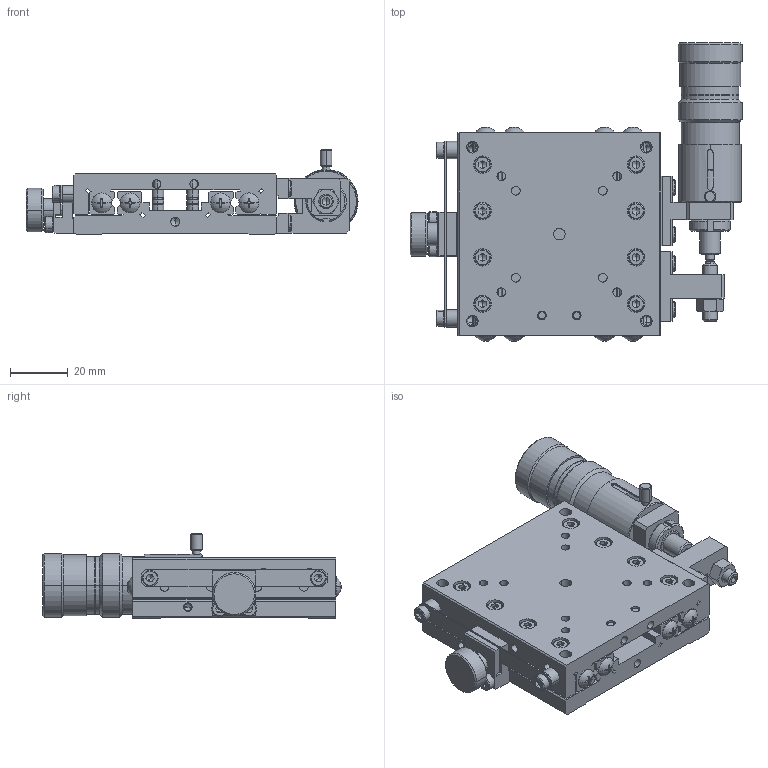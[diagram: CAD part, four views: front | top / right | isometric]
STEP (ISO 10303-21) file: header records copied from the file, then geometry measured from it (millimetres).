
FILE_DESCRIPTION (( 'STEP AP214' ), '1' );
FILE_NAME ('XM07F-S3-CL.STEP', '2009-05-11T06:16:03', ( ' ' ), ( ' ' ), 'SwSTEP 2.0', 'SolidWorks 2008', '' );
FILE_SCHEMA (( 'AUTOMOTIVE_DESIGN' ));
Length unit declared in the file: millimetre
Products named in the file (3): 001550-1011(3D)-8; XM07F-S3-CL; 001550-1023(3D)-8
Assembly tree (2 placements, depth 2):
  XM07F-S3-CL
    001550-1011(3D)-8
    001550-1023(3D)-8
Bounding box: 114.5 x 102.87 x 29.5 mm (x, y, z)
Volume: 109336.2 mm3; surface area: 53524.8 mm2
Topology: 2 solids, 45 shells, 1941 faces, 4652 edges, 2792 vertices
Faces by surface type: plane 901, cylinder 589, cone 417, sphere 18, torus 16
Entity records: 56425 total; most frequent: CARTESIAN_POINT 10994, DIRECTION 9969, ORIENTED_EDGE 9108, EDGE_CURVE 4554, AXIS2_PLACEMENT_3D 3792, VERTEX_POINT 2792, VECTOR 2385, LINE 2385
